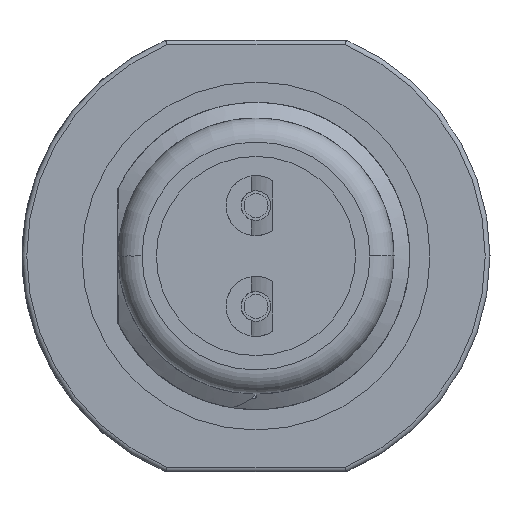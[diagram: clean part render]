
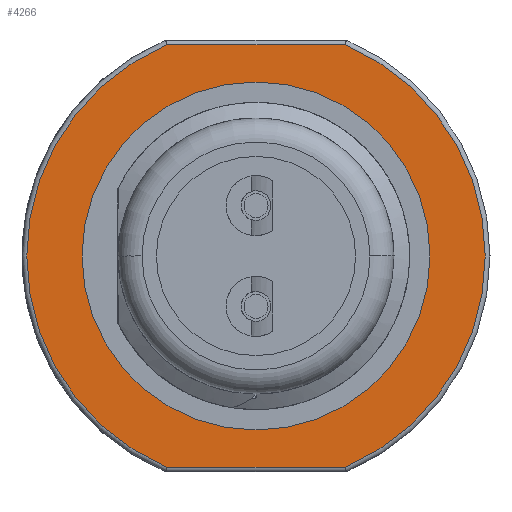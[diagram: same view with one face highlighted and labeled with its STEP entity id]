
A CAD part, left-side view. The second image highlights one B-rep face of the part: STEP entity #4266.
In plain terms, the highlighted planar face has unit normal (-1, 0, 0).
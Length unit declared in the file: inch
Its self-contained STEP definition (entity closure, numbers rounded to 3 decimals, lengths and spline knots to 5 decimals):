
#8=CARTESIAN_POINT('',(0.38583,0.38386,-0.35433));
#9=DIRECTION('',(1.,0.,0.));
#10=DIRECTION('',(0.,-0.388,0.921));
#11=AXIS2_PLACEMENT_3D('',#8,#9,#10);
#13=CARTESIAN_POINT('',(0.38583,0.38386,
-0.35433));
#14=DIRECTION('',(1.,0.,0.));
#15=DIRECTION('',(0.,0.388,-0.921));
#16=AXIS2_PLACEMENT_3D('',#13,#14,#15);
#18=CARTESIAN_POINT('',(0.38583,0.38386,
-0.35433));
#19=DIRECTION('',(-1.,0.,0.));
#20=DIRECTION('',(0.,-1.,0.));
#21=AXIS2_PLACEMENT_3D('',#18,#19,#20);
#23=CARTESIAN_POINT('',(0.38583,0.38386,
-0.35433));
#24=DIRECTION('',(-1.,0.,0.));
#25=DIRECTION('',(0.,1.,0.));
#26=AXIS2_PLACEMENT_3D('',#23,#24,#25);
#52=DIRECTION('',(0.,1.,0.));
#53=VECTOR('',#52,0.29211);
#54=CARTESIAN_POINT('',(0.38583,0.2378,
-0.00787));
#55=LINE('',#54,#53);
#183=DIRECTION('',(0.,-1.,0.));
#184=VECTOR('',#183,0.29211);
#185=CARTESIAN_POINT('',(0.38583,0.52991,
-0.70079));
#186=LINE('',#185,#184);
#3699=CARTESIAN_POINT('',(0.38583,0.2378,
-0.00787));
#3700=CARTESIAN_POINT('',(0.38583,0.2378,
-0.70079));
#3701=VERTEX_POINT('',#3699);
#3702=VERTEX_POINT('',#3700);
#3703=CARTESIAN_POINT('',(0.38583,0.52991,
-0.70079));
#3704=CARTESIAN_POINT('',(0.38583,0.52991,
-0.00787));
#3705=VERTEX_POINT('',#3703);
#3706=VERTEX_POINT('',#3704);
#3707=CARTESIAN_POINT('',(0.38583,0.09843,
-0.35433));
#3708=CARTESIAN_POINT('',(0.38583,0.66929,
-0.35433));
#3709=VERTEX_POINT('',#3707);
#3710=VERTEX_POINT('',#3708);
#4245=CARTESIAN_POINT('',(0.38583,0.38386,
-0.35433));
#4246=DIRECTION('',(1.,0.,0.));
#4247=DIRECTION('',(0.,-1.,0.));
#4248=AXIS2_PLACEMENT_3D('',#4245,#4246,#4247);
#4249=PLANE('',#4248);
#4251=ORIENTED_EDGE('',*,*,#4250,.T.);
#4253=ORIENTED_EDGE('',*,*,#4252,.F.);
#4255=ORIENTED_EDGE('',*,*,#4254,.T.);
#4257=ORIENTED_EDGE('',*,*,#4256,.F.);
#4258=EDGE_LOOP('',(#4251,#4253,#4255,#4257));
#4259=FACE_OUTER_BOUND('',#4258,.F.);
#4261=ORIENTED_EDGE('',*,*,#4260,.T.);
#4263=ORIENTED_EDGE('',*,*,#4262,.T.);
#4264=EDGE_LOOP('',(#4261,#4263));
#4265=FACE_BOUND('',#4264,.F.);
#4266=ADVANCED_FACE('',(#4259,#4265),#4249,.F.);
#12=CIRCLE('',#11,0.37598);
#17=CIRCLE('',#16,0.37598);
#22=CIRCLE('',#21,0.28543);
#27=CIRCLE('',#26,0.28543);
#4250=EDGE_CURVE('',#3701,#3702,#12,.T.);
#4252=EDGE_CURVE('',#3705,#3702,#186,.T.);
#4254=EDGE_CURVE('',#3705,#3706,#17,.T.);
#4256=EDGE_CURVE('',#3701,#3706,#55,.T.);
#4260=EDGE_CURVE('',#3709,#3710,#22,.T.);
#4262=EDGE_CURVE('',#3710,#3709,#27,.T.);
